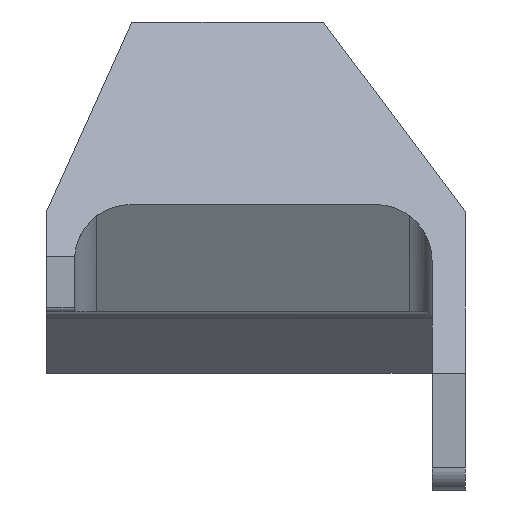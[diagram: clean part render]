
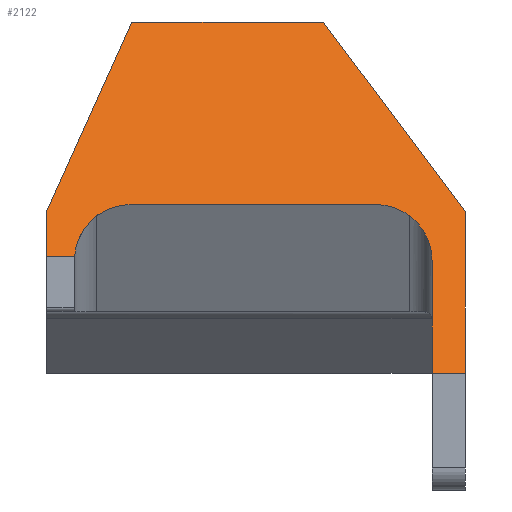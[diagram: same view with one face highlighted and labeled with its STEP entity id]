
A CAD part, left-side view. The second image highlights one B-rep face of the part: STEP entity #2122.
In plain terms, the highlighted planar face has unit normal (-0.866, 0, 0.5).
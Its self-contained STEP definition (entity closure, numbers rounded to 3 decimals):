
#23 = VERTEX_POINT ( 'NONE', #587 ) ;
#102 = CARTESIAN_POINT ( 'NONE',  ( -28., 1.5, -2.767 ) ) ;
#104 = ORIENTED_EDGE ( 'NONE', *, *, #1558, .T. ) ;
#114 = CARTESIAN_POINT ( 'NONE',  ( -23.804, 20.3, 4.5 ) ) ;
#160 = PLANE ( 'NONE',  #3367 ) ;
#176 = DIRECTION ( 'NONE',  ( -0.866, 0., 0.5 ) ) ;
#177 = LINE ( 'NONE', #1736, #2193 ) ;
#188 = CARTESIAN_POINT ( 'NONE',  ( -25.074, 3., 2.3 ) ) ;
#190 = CARTESIAN_POINT ( 'NONE',  ( -24.965, 20.3, 2.489 ) ) ;
#265 = VERTEX_POINT ( 'NONE', #190 ) ;
#267 = CARTESIAN_POINT ( 'NONE',  ( -23.631, 16.55, 4.8 ) ) ;
#358 = LINE ( 'NONE', #102, #2885 ) ;
#398 = CARTESIAN_POINT ( 'NONE',  ( -28., 3., -2.767 ) ) ;
#403 = CARTESIAN_POINT ( 'NONE',  ( -24.172, 18.939, 3.863 ) ) ;
#412 = VERTEX_POINT ( 'NONE', #267 ) ;
#429 =( BOUNDED_CURVE ( )  B_SPLINE_CURVE ( 3, ( #3103, #403, #1927, #3728 ),
 .UNSPECIFIED., .F., .T. ) 
 B_SPLINE_CURVE_WITH_KNOTS ( ( 4, 4 ),
 ( 4.788, 6.283 ),
 .UNSPECIFIED. ) 
 CURVE ( )  GEOMETRIC_REPRESENTATION_ITEM ( )  RATIONAL_B_SPLINE_CURVE ( ( 1., 0.822, 0.822, 1. ) ) 
 REPRESENTATION_ITEM ( '' )  );
#535 = CARTESIAN_POINT ( 'NONE',  ( -23.631, 5.5, 4.8 ) ) ;
#587 = CARTESIAN_POINT ( 'NONE',  ( -28., 3., -2.767 ) ) ;
#625 = CARTESIAN_POINT ( 'NONE',  ( -28., 1.5, -2.767 ) ) ;
#665 = LINE ( 'NONE', #3695, #1221 ) ;
#733 = EDGE_CURVE ( 'NONE', #23, #1995, #3127, .T. ) ;
#920 = EDGE_CURVE ( 'NONE', #3153, #3136, #1256, .T. ) ;
#938 = DIRECTION ( 'NONE',  ( -0.5, 0., -0.866 ) ) ;
#994 = DIRECTION ( 'NONE',  ( 0., 1., 0. ) ) ;
#1108 = EDGE_CURVE ( 'NONE', #3153, #3425, #3055, .T. ) ;
#1112 = EDGE_CURVE ( 'NONE', #3761, #1306, #358, .T. ) ;
#1114 = ORIENTED_EDGE ( 'NONE', *, *, #2750, .T. ) ;
#1151 = ORIENTED_EDGE ( 'NONE', *, *, #3497, .F. ) ;
#1185 = EDGE_CURVE ( 'NONE', #265, #1485, #177, .T. ) ;
#1221 = VECTOR ( 'NONE', #938, 1000. ) ;
#1236 = VECTOR ( 'NONE', #2044, 1000. ) ;
#1256 = LINE ( 'NONE', #3015, #2783 ) ;
#1306 = VERTEX_POINT ( 'NONE', #625 ) ;
#1335 = CARTESIAN_POINT ( 'NONE',  ( -18.897, 7.875, 13. ) ) ;
#1364 = DIRECTION ( 'NONE',  ( 0.5, 0., 0.866 ) ) ;
#1366 = LINE ( 'NONE', #398, #2587 ) ;
#1388 = EDGE_CURVE ( 'NONE', #3136, #265, #665, .T. ) ;
#1399 = CARTESIAN_POINT ( 'NONE',  ( -18.897, 16.475, 13. ) ) ;
#1462 = LINE ( 'NONE', #2066, #1236 ) ;
#1485 = VERTEX_POINT ( 'NONE', #3421 ) ;
#1530 = ORIENTED_EDGE ( 'NONE', *, *, #1112, .F. ) ;
#1558 = EDGE_CURVE ( 'NONE', #1485, #412, #429, .T. ) ;
#1567 = DIRECTION ( 'NONE',  ( 0., -1., 0. ) ) ;
#1586 = CARTESIAN_POINT ( 'NONE',  ( -18.897, 9.075, 13. ) ) ;
#1610 = VERTEX_POINT ( 'NONE', #1886 ) ;
#1642 = CARTESIAN_POINT ( 'NONE',  ( -19.802, 3., 11.433 ) ) ;
#1698 = VECTOR ( 'NONE', #1567, 1000. ) ;
#1711 = CARTESIAN_POINT ( 'NONE',  ( -24.229, 3., 3.764 ) ) ;
#1720 = DIRECTION ( 'NONE',  ( 0., -1., 0. ) ) ;
#1736 = CARTESIAN_POINT ( 'NONE',  ( -24.965, 20.3, 2.489 ) ) ;
#1782 = DIRECTION ( 'NONE',  ( -0.466, 0.363, -0.807 ) ) ;
#1886 = CARTESIAN_POINT ( 'NONE',  ( -23.631, 5.5, 4.8 ) ) ;
#1927 = CARTESIAN_POINT ( 'NONE',  ( -23.631, 17.928, 4.8 ) ) ;
#1932 = DIRECTION ( 'NONE',  ( 0.5, 0., 0.866 ) ) ;
#1995 = VERTEX_POINT ( 'NONE', #2740 ) ;
#2044 = DIRECTION ( 'NONE',  ( 0.419, 0.545, 0.726 ) ) ;
#2066 = CARTESIAN_POINT ( 'NONE',  ( -14.696, 13.332, 20.276 ) ) ;
#2122 = ADVANCED_FACE ( 'NONE', ( #3482 ), #160, .T. ) ;
#2187 = DIRECTION ( 'NONE',  ( -0.5, 0., -0.866 ) ) ;
#2193 = VECTOR ( 'NONE', #1720, 1000. ) ;
#2518 = EDGE_LOOP ( 'NONE', ( #3215, #3181, #3385, #3003, #104, #2906, #1151, #2680, #3432, #1530, #1114 ) ) ;
#2587 = VECTOR ( 'NONE', #3741, 1000. ) ;
#2649 = EDGE_CURVE ( 'NONE', #23, #1306, #1366, .T. ) ;
#2680 = ORIENTED_EDGE ( 'NONE', *, *, #733, .F. ) ;
#2740 = CARTESIAN_POINT ( 'NONE',  ( -25.074, 3., 2.3 ) ) ;
#2750 = EDGE_CURVE ( 'NONE', #3761, #3425, #1462, .T. ) ;
#2783 = VECTOR ( 'NONE', #1782, 1000. ) ;
#2884 = CARTESIAN_POINT ( 'NONE',  ( -28., 3., -2.767 ) ) ;
#2885 = VECTOR ( 'NONE', #2187, 1000. ) ;
#2906 = ORIENTED_EDGE ( 'NONE', *, *, #3397, .F. ) ;
#3003 = ORIENTED_EDGE ( 'NONE', *, *, #1185, .T. ) ;
#3015 = CARTESIAN_POINT ( 'NONE',  ( -10.753, 10.127, 27.106 ) ) ;
#3055 = LINE ( 'NONE', #1586, #1698 ) ;
#3103 = CARTESIAN_POINT ( 'NONE',  ( -24.965, 19.043, 2.489 ) ) ;
#3104 = CARTESIAN_POINT ( 'NONE',  ( -23.804, 1.5, 4.5 ) ) ;
#3127 = LINE ( 'NONE', #2884, #3281 ) ;
#3136 = VERTEX_POINT ( 'NONE', #114 ) ;
#3153 = VERTEX_POINT ( 'NONE', #1399 ) ;
#3181 = ORIENTED_EDGE ( 'NONE', *, *, #920, .T. ) ;
#3215 = ORIENTED_EDGE ( 'NONE', *, *, #1108, .F. ) ;
#3281 = VECTOR ( 'NONE', #1932, 1000. ) ;
#3365 = VECTOR ( 'NONE', #994, 1000. ) ;
#3367 = AXIS2_PLACEMENT_3D ( 'NONE', #1642, #176, #1364 ) ;
#3385 = ORIENTED_EDGE ( 'NONE', *, *, #1388, .T. ) ;
#3397 = EDGE_CURVE ( 'NONE', #1610, #412, #3419, .T. ) ;
#3419 = LINE ( 'NONE', #3692, #3365 ) ;
#3421 = CARTESIAN_POINT ( 'NONE',  ( -24.965, 19.043, 2.489 ) ) ;
#3425 = VERTEX_POINT ( 'NONE', #1335 ) ;
#3432 = ORIENTED_EDGE ( 'NONE', *, *, #2649, .T. ) ;
#3482 = FACE_OUTER_BOUND ( 'NONE', #2518, .T. ) ;
#3497 = EDGE_CURVE ( 'NONE', #1995, #1610, #3499, .T. ) ;
#3499 =( BOUNDED_CURVE ( )  B_SPLINE_CURVE ( 3, ( #188, #1711, #3511, #535 ),
 .UNSPECIFIED., .F., .T. ) 
 B_SPLINE_CURVE_WITH_KNOTS ( ( 4, 4 ),
 ( 4.712, 6.283 ),
 .UNSPECIFIED. ) 
 CURVE ( )  GEOMETRIC_REPRESENTATION_ITEM ( )  RATIONAL_B_SPLINE_CURVE ( ( 1., 0.805, 0.805, 1. ) ) 
 REPRESENTATION_ITEM ( '' )  );
#3511 = CARTESIAN_POINT ( 'NONE',  ( -23.631, 4.036, 4.8 ) ) ;
#3692 = CARTESIAN_POINT ( 'NONE',  ( -23.631, 20.3, 4.8 ) ) ;
#3695 = CARTESIAN_POINT ( 'NONE',  ( -28., 20.3, -2.767 ) ) ;
#3728 = CARTESIAN_POINT ( 'NONE',  ( -23.631, 16.55, 4.8 ) ) ;
#3741 = DIRECTION ( 'NONE',  ( 0., -1., 0. ) ) ;
#3761 = VERTEX_POINT ( 'NONE', #3104 ) ;
